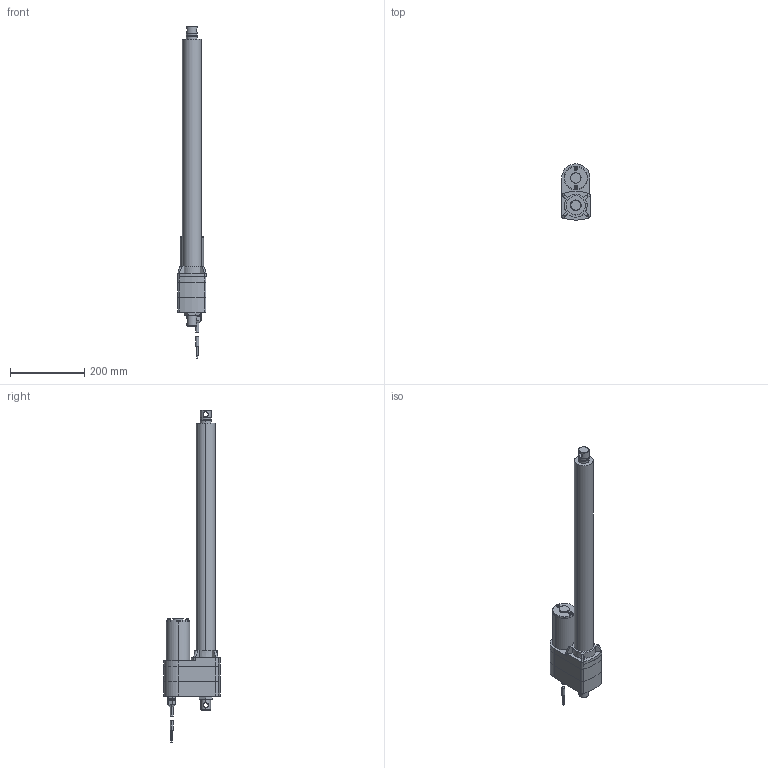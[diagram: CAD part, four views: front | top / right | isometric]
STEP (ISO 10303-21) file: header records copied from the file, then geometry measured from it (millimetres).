
FILE_DESCRIPTION (( 'STEP AP203' ), '1' );
FILE_NAME ('LA10_BALL_18_POT.step', '2021-02-24T15:36:28', ( '' ), ( '' ), 'SwSTEP 2.0', 'SolidWorks 2017', '' );
FILE_SCHEMA (( 'CONFIG_CONTROL_DESIGN' ));
Length unit declared in the file: millimetre
Products named in the file (1): LA10_BALL_18_POT
Bounding box: 77.22 x 151.29 x 893.53 mm (x, y, z)
Volume: 2779515.2 mm3; surface area: 261106.8 mm2
Topology: 14 solids, 14 shells, 345 faces, 740 edges, 460 vertices
Faces by surface type: plane 162, cylinder 115, cone 24, bspline 22, torus 18, sphere 4
Entity records: 11368 total; most frequent: CARTESIAN_POINT 3734, DIRECTION 1643, ORIENTED_EDGE 1480, EDGE_CURVE 740, AXIS2_PLACEMENT_3D 649, VERTEX_POINT 460, EDGE_LOOP 390, ADVANCED_FACE 345
